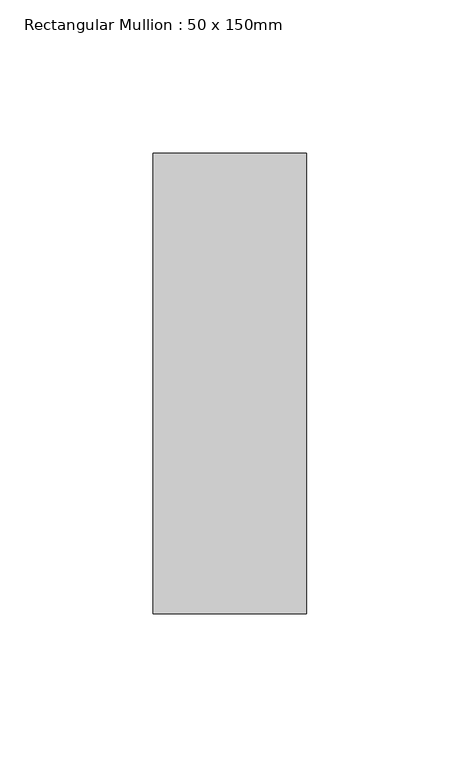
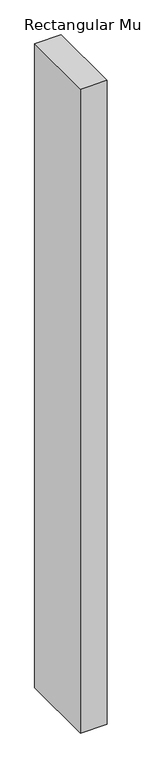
"""IFC4 building model written with IfcOpenShell, lengths in millimetres: member geometry, Rectangular Mullion : 50 x 150mm."""

from ifc_helpers import new_model, si_unit, frame, origin, place, context, project, spatial, polyline, outline, extrude, source, transform, mapped, element, save


def rectangular_mullion_50_x_150mm_ebacdf34(model_context):
    return source(origin(), model_context, "Body", "SweptSolid", [
        extrude(outline(polyline([(0.0, 75.0), (0.0, -75.0), (-50.0, -75.0), (-50.0, 75.0), (0.0, 75.0)])), frame((0.0, 0.0, -1286.6666665), z_axis=(0.0, 0.0, 1.0), x_axis=(1.0, 0.0, 0.0)), (0.0, 0.0, 1.0), 1286.6666665),
    ])


if __name__ == "__main__":
    model = new_model("IFC4")
    model_context = context("Model", 3, world=origin())
    ifc_project = project(units=[si_unit("LENGTHUNIT", "METRE", prefix="MILLI")], contexts=[model_context])
    site = spatial("IfcSite", under=ifc_project)
    building = spatial("IfcBuilding", under=site)
    placement = place(None, origin())
    rectangular_mullion_50_x_150mm_shape = rectangular_mullion_50_x_150mm_ebacdf34(model_context)
    element("IfcMember", 1, ObjectType="Rectangular Mullion : 50 x 150mm", at=placement, inside=building, context=model_context, shape_type="MappedRepresentation", body=[
        mapped(rectangular_mullion_50_x_150mm_shape, transform((0.0, 0.0, 0.0), x_axis=(1.0, 0.0, 0.0), y_axis=(0.0, 1.0, 0.0), z_axis=(0.0, 0.0, 1.0))),
    ])
    save(model, "model.ifc")
